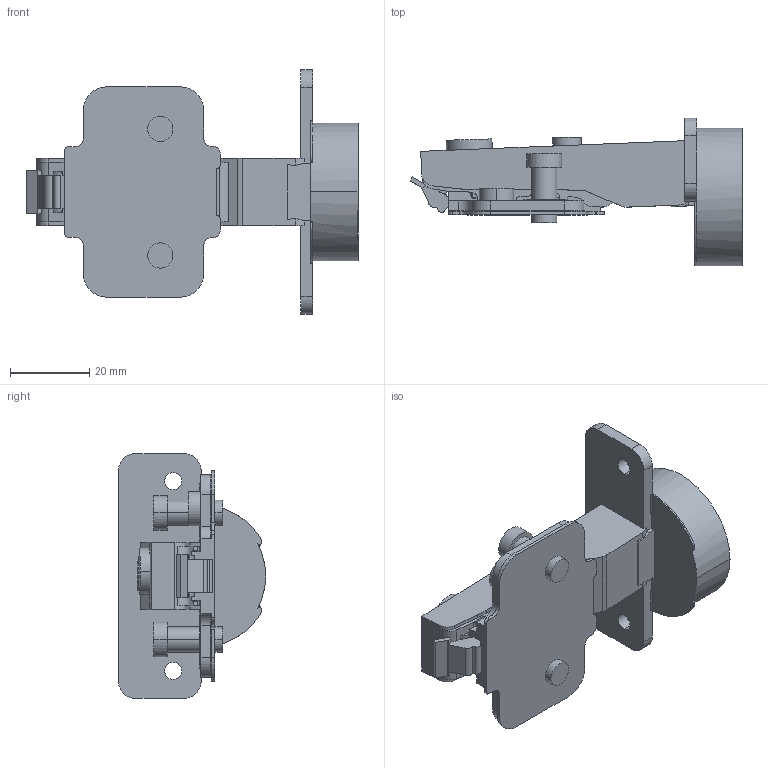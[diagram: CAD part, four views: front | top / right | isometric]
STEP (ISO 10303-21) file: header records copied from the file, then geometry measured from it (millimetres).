
FILE_DESCRIPTION (( 'STEP AP203' ), '1' );
FILE_NAME ('C82A676F+82T02TQ-DTC3Dclose.STEP', '2023-04-13T08:34:02', ( 'Windows 蚚誧' ), ( '' ), 'SwSTEP 2.0', 'SolidWorks 2018', '' );
FILE_SCHEMA (( 'CONFIG_CONTROL_DESIGN' ));
Length unit declared in the file: millimetre
Products named in the file (1): C82A676F+82T02TQ-DTC3Dclose
Bounding box: 83.98 x 37.28 x 61.96 mm (x, y, z)
Volume: 38138.8 mm3; surface area: 13911.6 mm2
Topology: 1 solids, 3 shells, 437 faces, 1219 edges, 797 vertices
Faces by surface type: plane 197, cylinder 191, torus 30, bspline 19
Entity records: 14701 total; most frequent: CARTESIAN_POINT 3333, ORIENTED_EDGE 2438, DIRECTION 2345, EDGE_CURVE 1219, AXIS2_PLACEMENT_3D 818, VERTEX_POINT 797, VECTOR 709, LINE 709
